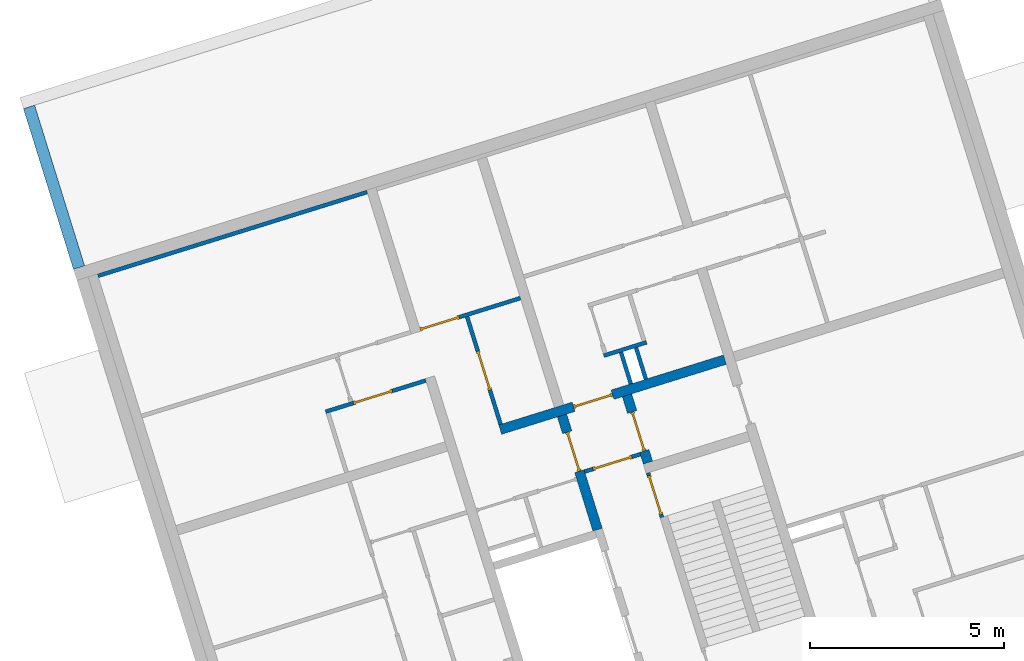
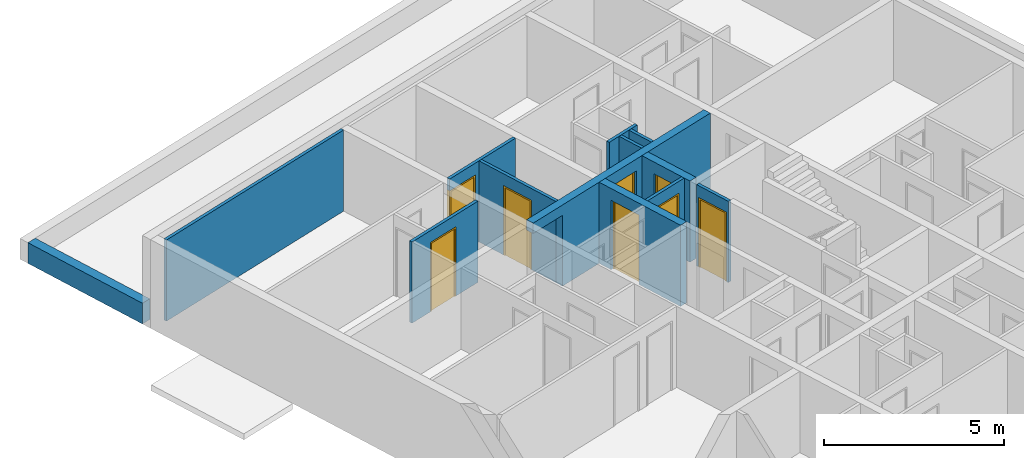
# One storey, part 5 of 9: 13 walls, 8 doors, 9 openings.
"""IFC4 building model written with IfcOpenShell, lengths in metres."""

import ifcopenshell
import ifcopenshell.guid

model = None  # the IFC model being written
_history = None  # IfcOwnerHistory: only IFC2X3 demands one
_inside = {}  # id of a spatial element -> (the spatial element, [elements in it])
_under = {}  # id of a project, library or spatial element -> (it, [spatial elements below it])
_declared = {}  # id of a project -> (the project, [libraries it declares])
_typed = {}  # id of a type object -> (the type object, [elements of that type])
_made_of = {}  # id of a material, layer set ... -> (it, [elements and type objects made of it])


def new_model(schema):
    """Start an empty IFC model of exactly this schema.

    Asked for "IFC4X3", IfcOpenShell would pick the latest addendum, in which some entities
    have other attributes; the version numbers below select the first issue.
    IFC2X3 requires an IfcOwnerHistory on every rooted entity: one is made here for all.
    """
    global model, _history
    if schema == "IFC4X3":
        model = ifcopenshell.file(schema_version=(4, 3, 0, 0))
    else:
        model = ifcopenshell.file(schema=schema)
    _inside.clear()
    _under.clear()
    _declared.clear()
    _typed.clear()
    _made_of.clear()
    _history = None
    if model.schema == "IFC2X3":
        org = make("IfcOrganization", Name="unknown")
        user = make(
            "IfcPersonAndOrganization",
            ThePerson=make("IfcPerson", FamilyName="unknown"),
            TheOrganization=org,
        )
        app = make(
            "IfcApplication",
            ApplicationDeveloper=org,
            Version="unknown",
            ApplicationFullName="unknown",
            ApplicationIdentifier="unknown",
        )
        _history = make(
            "IfcOwnerHistory",
            OwningUser=user,
            OwningApplication=app,
            ChangeAction="ADDED",
            CreationDate=0,
        )
    return model


def make(cls, **values):
    """One entity of the class cls with the attributes given. An attribute that is None is left unset."""
    return model.create_entity(
        cls, **{name: value for name, value in values.items() if value is not None}
    )


def entity(cls, *values):
    """Any entity or typed value of the class cls, its attributes in the order of the schema. None: left unset."""
    e = model.create_entity(cls)
    for i, value in enumerate(values):
        if value is not None:
            e[i] = value
    return e


def rooted(cls, **values):
    """An entity with a GlobalId (a new one), such as an element, a storey or a relation."""
    return make(cls, GlobalId=ifcopenshell.guid.new(), OwnerHistory=_history, **values)


def si_unit(unit_type, name, prefix=None):
    """IfcSIUnit, for example si_unit("LENGTHUNIT", "METRE", prefix="MILLI")."""
    return make("IfcSIUnit", UnitType=unit_type, Prefix=prefix, Name=name)


def converted_unit(unit_type, name, factor, base, dimensions=None, offset=None):
    """IfcConversionBasedUnit, such as the inch: factor (a typed value) times the base unit."""
    return make(
        "IfcConversionBasedUnit"
        if offset is None
        else "IfcConversionBasedUnitWithOffset",
        ConversionOffset=offset,
        Dimensions=None
        if dimensions is None
        else entity("IfcDimensionalExponents", *dimensions),
        UnitType=unit_type,
        Name=name,
        ConversionFactor=make(
            "IfcMeasureWithUnit", ValueComponent=factor, UnitComponent=base
        ),
    )


def assignment(units):
    """IfcUnitAssignment: the units of a project."""
    return None if units is None else make("IfcUnitAssignment", Units=units)


def point(xyz):
    """IfcCartesianPoint."""
    return None if xyz is None else make("IfcCartesianPoint", Coordinates=xyz)


def direction(xyz):
    """IfcDirection."""
    return None if xyz is None else make("IfcDirection", DirectionRatios=xyz)


def frame(location, z_axis=None, x_axis=None):
    """IfcAxis2Placement3D, a coordinate frame: its origin and axes. An axis left out is left unset."""
    return make(
        "IfcAxis2Placement3D",
        Location=point(location),
        Axis=direction(z_axis),
        RefDirection=direction(x_axis),
    )


def origin():
    """The frame at (0, 0, 0) with its axes left unset."""
    return frame((0.0, 0.0, 0.0))


def place(relative_to, where):
    """IfcLocalPlacement: puts the frame where relative to a parent placement (None: the world)."""
    return make(
        "IfcLocalPlacement", PlacementRelTo=relative_to, RelativePlacement=where
    )


def context(
    kind, dimensions, precision=None, world=None, true_north=None, identifier=None
):
    """IfcGeometricRepresentationContext, for example the 3D "Model" context."""
    return make(
        "IfcGeometricRepresentationContext",
        ContextIdentifier=identifier,
        ContextType=kind,
        CoordinateSpaceDimension=dimensions,
        Precision=precision,
        WorldCoordinateSystem=world,
        TrueNorth=true_north,
    )


def subcontext(parent, identifier, kind, view, scale=None):
    """IfcGeometricRepresentationSubContext, for example "Body" below "Model"."""
    return make(
        "IfcGeometricRepresentationSubContext",
        ContextIdentifier=identifier,
        ContextType=kind,
        ParentContext=parent,
        TargetScale=scale,
        TargetView=view,
    )


def project(units=None, contexts=None):
    """IfcProject with its units and contexts."""
    return rooted(
        "IfcProject",
        Name="project",
        RepresentationContexts=contexts,
        UnitsInContext=assignment(units),
    )


def spatial(cls, under=None, at=None, **own):
    """A site, building, storey or space (cls), placed at a placement, below another one or the project."""
    s = rooted(cls, ObjectPlacement=at, **own)
    if under is not None:
        _under.setdefault(under.id(), (under, []))[1].append(s)
    return s


def point_list(points):
    """IfcCartesianPointList2D or 3D."""
    cls = (
        "IfcCartesianPointList2D" if len(points[0]) == 2 else "IfcCartesianPointList3D"
    )
    return make(cls, CoordList=points)


def indexed_curve(points, segments=None, self_intersect=None):
    """IfcIndexedPolyCurve: lines and arcs through numbered points (the first is 1)."""
    return make(
        "IfcIndexedPolyCurve",
        Points=point_list(points),
        Segments=segments,
        SelfIntersect=self_intersect,
    )


def outline(outer, holes=None, kind="AREA"):
    """IfcArbitraryClosedProfileDef: a profile drawn as a closed curve; with holes, ...WithVoids."""
    if holes is None:
        return make("IfcArbitraryClosedProfileDef", ProfileType=kind, OuterCurve=outer)
    return make(
        "IfcArbitraryProfileDefWithVoids",
        ProfileType=kind,
        OuterCurve=outer,
        InnerCurves=holes,
    )


def extrude(swept, where, along, depth):
    """IfcExtrudedAreaSolid: the profile swept, set in the frame where, extruded along a direction by depth."""
    return make(
        "IfcExtrudedAreaSolid",
        SweptArea=swept,
        Position=where,
        ExtrudedDirection=direction(along),
        Depth=depth,
    )


def polygons(points, faces, closed=None, point_numbers=None):
    """IfcPolygonalFaceSet: a face is its outer loop, then its inner loops; points numbered from 1."""
    made = []
    for loops in faces:
        if len(loops) == 1:
            made.append(make("IfcIndexedPolygonalFace", CoordIndex=loops[0]))
        else:
            made.append(
                make(
                    "IfcIndexedPolygonalFaceWithVoids",
                    CoordIndex=loops[0],
                    InnerCoordIndices=loops[1:],
                )
            )
    return make(
        "IfcPolygonalFaceSet",
        Coordinates=point_list(points),
        Closed=closed,
        Faces=made,
        PnIndex=point_numbers,
    )


def shape(context_of_items, identifier, shape_type, items):
    """IfcShapeRepresentation: the items that make up one representation, for example the "Body"."""
    return make(
        "IfcShapeRepresentation",
        ContextOfItems=context_of_items,
        RepresentationIdentifier=identifier,
        RepresentationType=shape_type,
        Items=items,
    )


def source(mapping_origin, context_of_items, identifier, shape_type, items):
    """IfcRepresentationMap: a shape defined once, which mapped items show again and again."""
    return make(
        "IfcRepresentationMap",
        MappingOrigin=mapping_origin,
        MappedRepresentation=shape(context_of_items, identifier, shape_type, items),
    )


def transform(
    local_origin,
    x_axis=None,
    y_axis=None,
    z_axis=None,
    scale=None,
    scale2=None,
    scale3=None,
    uniform=True,
):
    """IfcCartesianTransformationOperator3D, or its non-uniform kind. x_axis, y_axis, z_axis: its Axis1, 2, 3."""
    if uniform:
        return make(
            "IfcCartesianTransformationOperator3D",
            Axis1=direction(x_axis),
            Axis2=direction(y_axis),
            LocalOrigin=point(local_origin),
            Scale=scale,
            Axis3=direction(z_axis),
        )
    return make(
        "IfcCartesianTransformationOperator3DnonUniform",
        Axis1=direction(x_axis),
        Axis2=direction(y_axis),
        LocalOrigin=point(local_origin),
        Scale=scale,
        Axis3=direction(z_axis),
        Scale2=scale2,
        Scale3=scale3,
    )


def mapped(mapping_source, mapping_target):
    """IfcMappedItem: shows the shape of a source again, moved by a transform."""
    return make(
        "IfcMappedItem", MappingSource=mapping_source, MappingTarget=mapping_target
    )


def material(Name=None, Category=None):
    """IfcMaterial."""
    return make("IfcMaterial", Name=Name, Category=Category)


def constituent(of_material, Name=None, Category=None, fraction=None):
    """IfcMaterialConstituent: one of the materials an element consists of."""
    return make(
        "IfcMaterialConstituent",
        Name=Name,
        Material=of_material,
        Fraction=fraction,
        Category=Category,
    )


def constituent_set(constituents=None, Name=None):
    """IfcMaterialConstituentSet."""
    return make(
        "IfcMaterialConstituentSet", Name=Name, MaterialConstituents=constituents
    )


def made_of(thing, what):
    """Note that an element or type object is made of a material, layer set ...; save() writes the relation."""
    if what is not None:
        _made_of.setdefault(what.id(), (what, []))[1].append(thing)
    return thing


def type_object(cls, material=None, **own):
    """A type object (cls), such as IfcWallType, which elements share."""
    return made_of(rooted(cls, **own), material)


def type_shapes(of_type, sources):
    """Give a type object the sources (RepresentationMaps) that its elements show as mapped items."""
    of_type.RepresentationMaps = sources


def element(
    cls,
    number,
    at=None,
    inside=None,
    cuts=None,
    type_object=None,
    material=None,
    context=None,
    identifier="Body",
    shape_type=None,
    held_by="IfcProductDefinitionShape",
    body=None,
    shapes=None,
    **own,
):
    """One element of the class cls, such as IfcWall. Its Tag is "e" and its number.

    at: its placement. inside: the storey or other place that contains it. cuts: it is an
    opening in that element (IfcRelVoidsElement). A single representation is given by context,
    identifier, shape_type and body (its items); several are given by shapes. held_by: the class
    of the entity that holds the representations. save() writes the other relations.
    """
    e = rooted(cls, Tag="e%d" % number, ObjectPlacement=at, **own)
    if body is not None:
        shapes = [shape(context, identifier, shape_type, body)]
    if shapes is not None:
        e.Representation = make(held_by, Representations=shapes)
    if inside is not None:
        _inside.setdefault(inside.id(), (inside, []))[1].append(e)
    if cuts is not None:
        rooted(
            "IfcRelVoidsElement", RelatingBuildingElement=cuts, RelatedOpeningElement=e
        )
    if type_object is not None:
        _typed.setdefault(type_object.id(), (type_object, []))[1].append(e)
    return made_of(e, material)


def fill(opening, filler):
    """IfcRelFillsElement: the door or window that sits in an opening."""
    return rooted(
        "IfcRelFillsElement",
        RelatingOpeningElement=opening,
        RelatedBuildingElement=filler,
    )


def aggregate(whole, parts):
    """IfcRelAggregates: a whole, such as a stair, and the parts it consists of."""
    return rooted("IfcRelAggregates", RelatingObject=whole, RelatedObjects=parts)


def save(model, path):
    """Write the relations noted so far, then the file.

    IfcRelAggregates (storeys below a building ...), IfcRelContainedInSpatialStructure (elements
    in a storey), IfcRelDefinesByType, IfcRelAssociatesMaterial and IfcRelDeclares: one each for
    every whole, place, type object, material and project.
    """
    for whole, parts in _under.values():
        aggregate(whole, parts)
    for where, things in _inside.values():
        rooted(
            "IfcRelContainedInSpatialStructure",
            RelatedElements=things,
            RelatingStructure=where,
        )
    for kind, things in _typed.values():
        rooted("IfcRelDefinesByType", RelatedObjects=things, RelatingType=kind)
    for what, things in _made_of.values():
        rooted("IfcRelAssociatesMaterial", RelatedObjects=things, RelatingMaterial=what)
    for by, libraries in _declared.values():
        rooted("IfcRelDeclares", RelatingContext=by, RelatedDefinitions=libraries)
    model.write(path)


model = new_model("IFC4")

# Units and contexts
model_context = context("Model", 3, precision=1e-05, world=origin(), true_north=direction((6.12323399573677e-17, 1.0)))
body_context = subcontext(model_context, "Body", "Model", "MODEL_VIEW")
ifc_project = project(units=[si_unit("LENGTHUNIT", "METRE"), si_unit("AREAUNIT", "SQUARE_METRE"), si_unit("VOLUMEUNIT", "CUBIC_METRE"), converted_unit("PLANEANGLEUNIT", "DEGREE", entity("IfcPlaneAngleMeasure", 0.0174532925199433), si_unit("PLANEANGLEUNIT", "RADIAN"), dimensions=[0, 0, 0, 0, 0, 0, 0])], contexts=[model_context])

# Site, building, storey
site_placement = place(None, frame((13.1347999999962, 11.9886000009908, 0.0), z_axis=(0.0, 0.0, 1.0), x_axis=(0.954770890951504, 0.297342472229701, 0.0)))
site = spatial("IfcSite", under=ifc_project, at=site_placement, Name="Schiehaven", CompositionType="ELEMENT")
building_placement = place(site_placement, origin())
building = spatial("IfcBuilding", under=site, at=building_placement, Name="VORM huis", CompositionType="ELEMENT")
storey_placement = place(building_placement, frame((0.0, 0.0, 6.9)))
storey = spatial("IfcBuildingStorey", under=building, at=storey_placement, Name="02 tweede verdieping", CompositionType="ELEMENT", Elevation=6.9)

# Wall, openings, door
ifc_material_1 = material(Name="beton_gewapend_ihw", Category="Miscellaneous")
wall_type_1 = type_object("IfcWallType", Name="Basic Wall:28_WA_skelet_wand 250mm_gen", PredefinedType="STANDARD")
wall_1_placement = place(storey_placement, frame((12.6250000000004, 22.1999999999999, 0.0)))
wall_1 = element("IfcWall", 1, at=wall_1_placement, inside=storey, type_object=wall_type_1, material=ifc_material_1, Name="Constructieve wand", ObjectType="Wand", PredefinedType="NOTDEFINED", context=body_context, shape_type="Tessellation", body=[
    polygons([(4.225, -0.124999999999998, 2.34999999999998), (4.225, -0.124999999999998, 1.08286712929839e-15), (7.25, -0.124999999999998, 1.08286712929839e-15), (7.25, -0.124999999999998, 2.75), (-9.32382171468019e-16, -0.124999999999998, 2.75), (1.23335208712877e-15, -0.124999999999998, 2.4), (1.2, -0.124999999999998, 2.4), (1.2, -0.124999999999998, 1.08286712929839e-15), (3.175, -0.124999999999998, 1.08286712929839e-15), (3.175, -0.124999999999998, 2.34999999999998), (7.25, 0.125000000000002, 1.08286712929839e-15), (4.225, 0.125000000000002, 1.08286712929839e-15), (4.225, 0.125000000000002, 2.34999999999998), (3.175, 0.125000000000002, 2.34999999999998), (3.175, 0.125000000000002, 1.08286712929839e-15), (1.2, 0.124999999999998, 1.08286712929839e-15), (1.2, 0.125000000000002, 2.4), (1.38467104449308e-15, 0.125000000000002, 2.4), (1.38467104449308e-15, 0.125000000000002, 2.75), (7.25, 0.125000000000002, 2.75)], [[[1, 2, 3, 4, 5, 6, 7, 8, 9, 10]], [[11, 12, 13, 14, 15, 16, 17, 18, 19, 20]], [[9, 8, 16, 15]], [[5, 4, 20, 19]], [[5, 19, 18, 6]], [[15, 14, 10, 9]], [[13, 12, 2, 1]], [[14, 13, 1, 10]], [[7, 17, 16, 8]], [[17, 7, 6, 18]], [[4, 3, 11, 20]], [[3, 2, 12, 11]]], closed=True),
])
opening_1_placement = place(wall_1_placement, origin())
element("IfcOpeningElement", 2, at=opening_1_placement, cuts=wall_1, Name="Constructieve wand", PredefinedType="OPENING", context=body_context, shape_type="SweptSolid", body=[
    extrude(outline(indexed_curve([(-1.2, -0.6), (1.2, -0.6), (1.2, 0.6), (-1.2, 0.6), (-1.2, -0.6)], self_intersect=False)), frame((0.599999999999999, -0.125000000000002, 1.2), z_axis=(0.0, 1.0, 0.0), x_axis=(0.0, 0.0, -1.0)), (0.0, 0.0, 1.0), 0.250000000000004),
])
opening_2_placement = place(wall_1_placement, frame((4.22500000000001, 0.124999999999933, 0.0)))
opening_2 = element("IfcOpeningElement", 3, at=opening_2_placement, cuts=wall_1, Name="Woningtoegangsdeur", PredefinedType="OPENING", context=body_context, shape_type="SweptSolid", body=[
    extrude(outline(indexed_curve([(2.34999999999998, 1.05), (0.0, 1.05), (0.0, 1.08286712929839e-15), (2.34999999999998, 1.08286712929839e-15), (2.34999999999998, 1.05)], self_intersect=False)), frame((0.0, 0.0, 0.0), z_axis=(0.0, -1.0, 0.0), x_axis=(0.0, 0.0, 1.0)), (0.0, 0.0, 1.0), 0.25),
])
ifc_material_2 = material(Name="PD_a_binnenwandopeningen", Category="Miscellaneous")
ifc_constituent_1 = constituent(ifc_material_2, Name="PD_a_binnenwandopeningen", Category="Miscellaneous")
ifc_material_3 = material(Name="metaal_aluminium_ntb", Category="Miscellaneous")
ifc_constituent_2 = constituent(ifc_material_3, Name="metaal_aluminium_ntb", Category="Miscellaneous")
ifc_constituent_set_1 = constituent_set(constituents=[ifc_constituent_1, ifc_constituent_2])
door_type_1 = type_object("IfcDoorType", Name="32_DO_binnendeur enkel:woningtoegangsdeur", OperationType="REVOLVING", PredefinedType="DOOR")
shared_shape_1 = source(origin(), body_context, "Body", "SweptSolid", [
    extrude(outline(indexed_curve([(-1.16249999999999, -0.525000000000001), (1.18749999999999, -0.525), (1.18749999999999, 0.525000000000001), (-1.16249999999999, 0.525000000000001), (-1.16249999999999, 0.475), (1.13749999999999, 0.475), (1.13749999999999, -0.475), (-1.16249999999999, -0.475), (-1.16249999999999, -0.525000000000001)], self_intersect=False)), frame((0.525000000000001, 0.0749999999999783, 1.16249999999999), z_axis=(0.0, 1.0, 0.0), x_axis=(0.0, 0.0, 1.0)), (0.0, 0.0, 1.0), 0.1),
    extrude(outline(indexed_curve([(-0.025, -0.475), (0.025, -0.475), (0.025, 0.475), (-0.025, 0.475), (-0.025, -0.475)], self_intersect=False)), frame((0.525000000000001, 0.12499999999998, 0.0), z_axis=(0.0, 0.0, 1.0), x_axis=(0.0, 1.0, 0.0)), (0.0, 0.0, 1.0), 2.29999999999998),
])
door_1_placement = place(opening_2_placement, frame((0.0, 0.0, 0.0), z_axis=(0.0, 0.0, 1.0), x_axis=(-1.0, 0.0, 0.0)))
door_1 = element("IfcDoor", 4, at=door_1_placement, inside=storey, type_object=door_type_1, material=ifc_constituent_set_1, Name="Woningtoegangsdeur", ObjectType="Deur", OperationType="REVOLVING", OverallHeight=2.34999999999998, OverallWidth=1.05, PredefinedType="DOOR", context=body_context, shape_type="MappedRepresentation", body=[
    mapped(shared_shape_1, transform((0.0, 0.0, 0.0), scale=1.0)),
])
fill(opening_2, door_1)

# Walls
ifc_material_4 = material(Name="ntb_ntb_ntb", Category="Miscellaneous")
wall_type_2 = type_object("IfcWallType", Name="Basic Wall:21_WA_gevel_binnenspouwwand 100mm_gen", PredefinedType="STANDARD")
wall_2_placement = place(storey_placement, frame((5.12500000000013, 29.0500000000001, 0.0)))
element("IfcWall", 5, at=wall_2_placement, inside=storey, type_object=wall_type_2, material=ifc_material_4, Name="Binnenspouwblad", ObjectType="Wand", PredefinedType="NOTDEFINED", context=body_context, shape_type="SweptSolid", body=[
    extrude(outline(indexed_curve([(7.24999999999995, 0.0500000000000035), (-1.62265042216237e-16, 0.0500000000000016), (1.62265042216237e-16, -0.0500000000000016), (7.24999999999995, -0.0499999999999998), (7.24999999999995, 0.0500000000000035)], self_intersect=False)), origin(), (0.0, 0.0, 1.0), 2.75),
])
wall_type_3 = type_object("IfcWallType", Name="Basic Wall: 300mm_gen", PredefinedType="STANDARD")
wall_3_placement = place(storey_placement, frame((4.7250000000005, 29.3999999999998, 0.0), z_axis=(0.0, 0.0, 1.0), x_axis=(0.0, 1.0, 0.0)))
element("IfcWall", 6, at=wall_3_placement, inside=storey, type_object=wall_type_3, material=ifc_material_4, Name="Gevelwand", ObjectType="Wand", PredefinedType="NOTDEFINED", context=body_context, shape_type="SweptSolid", body=[
    extrude(outline(indexed_curve([(4.32500000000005, 0.15), (-1.83388115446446e-16, 0.15), (1.83388115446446e-16, -0.15), (4.32500000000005, -0.15), (4.32500000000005, 0.15)], self_intersect=False)), origin(), (0.0, 0.0, 1.0), 0.700000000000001),
])

# Wall, opening, door
wall_type_4 = type_object("IfcWallType", Name="Basic Wall:22_WA_afbouw_binnenwand 250mm_gen", PredefinedType="STANDARD")
wall_4_placement = place(storey_placement, frame((17.2000000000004, 20.2599999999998, 0.0), z_axis=(0.0, 0.0, 1.0), x_axis=(0.0, 1.0, 0.0)))
wall_4 = element("IfcWall", 7, at=wall_4_placement, inside=storey, type_object=wall_type_4, material=ifc_material_4, Name="Binnenwand", ObjectType="Wand", PredefinedType="NOTDEFINED", context=body_context, shape_type="Tessellation", body=[
    polygons([(0.0, -0.124999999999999, 1.08286712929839e-15), (0.315000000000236, -0.124999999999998, 1.08286712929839e-15), (0.315000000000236, -0.124999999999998, 2.34999999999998), (1.36500000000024, -0.124999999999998, 2.34999999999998), (1.36500000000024, -0.124999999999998, 1.08286712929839e-15), (1.81500000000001, -0.124999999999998, 1.08286712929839e-15), (1.81500000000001, -0.124999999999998, 2.75), (0.0, -0.124999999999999, 2.75), (0.315000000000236, 0.125000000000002, 2.34999999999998), (0.315000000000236, 0.125000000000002, 1.08286712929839e-15), (0.215000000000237, 0.125000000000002, 0.0), (0.0, 0.125, 1.08286712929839e-15), (0.0, 0.125, 2.75), (0.215000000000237, 0.125000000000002, 2.75), (0.315000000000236, 0.125000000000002, 2.75), (1.81500000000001, 0.124999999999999, 2.75), (1.81500000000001, 0.124999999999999, 1.08286712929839e-15), (1.36500000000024, 0.125000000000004, 1.08286712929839e-15), (1.36500000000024, 0.125000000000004, 2.34999999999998)], [[[1, 2, 3, 4, 5, 6, 7, 8]], [[9, 10, 11, 12, 13, 14, 15, 16, 17, 18, 19]], [[12, 11, 10, 2, 1]], [[7, 6, 17, 16]], [[8, 7, 16, 15, 14, 13]], [[5, 4, 19, 18]], [[3, 2, 10, 9]], [[4, 3, 9, 19]], [[1, 8, 13, 12]], [[18, 17, 6, 5]]], closed=True),
])
opening_3_placement = place(wall_4_placement, frame((0.315000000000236, -0.125000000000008, 0.0)))
opening_3 = element("IfcOpeningElement", 8, at=opening_3_placement, cuts=wall_4, Name="Woningtoegangsdeur", PredefinedType="OPENING", context=body_context, shape_type="SweptSolid", body=[
    extrude(outline(indexed_curve([(2.34999999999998, 1.05), (0.0, 1.05), (0.0, 0.0), (2.34999999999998, 0.0), (2.34999999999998, 1.05)], self_intersect=False)), frame((0.0, 0.0, 0.0), z_axis=(0.0, 1.0, 0.0), x_axis=(0.0, 0.0, 1.0)), (0.0, 0.0, 1.0), 0.25),
])
ifc_constituent_3 = constituent(ifc_material_2, Name="PD_a_binnenwandopeningen", Category="Miscellaneous")
ifc_constituent_4 = constituent(ifc_material_3, Name="metaal_aluminium_ntb", Category="Miscellaneous")
ifc_constituent_set_2 = constituent_set(constituents=[ifc_constituent_3, ifc_constituent_4])
shared_shape_2 = source(origin(), body_context, "Body", "SweptSolid", [
    extrude(outline(indexed_curve([(-1.16249999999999, -0.525000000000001), (1.18749999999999, -0.525), (1.18749999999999, 0.525000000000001), (-1.16249999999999, 0.525000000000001), (-1.16249999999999, 0.475), (1.13749999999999, 0.475), (1.13749999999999, -0.475), (-1.16249999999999, -0.475), (-1.16249999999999, -0.525000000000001)], self_intersect=False)), frame((0.525000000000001, 0.0749999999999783, 1.16249999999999), z_axis=(0.0, 1.0, 0.0), x_axis=(0.0, 0.0, 1.0)), (0.0, 0.0, 1.0), 0.1),
    extrude(outline(indexed_curve([(-0.025, -0.475), (0.025, -0.475), (0.025, 0.475), (-0.025, 0.475), (-0.025, -0.475)], self_intersect=False)), frame((0.525000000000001, 0.12499999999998, 0.0), z_axis=(0.0, 0.0, 1.0), x_axis=(0.0, 1.0, 0.0)), (0.0, 0.0, 1.0), 2.29999999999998),
])
type_shapes(door_type_1, [shared_shape_2])
door_2_placement = place(opening_3_placement, origin())
door_2 = element("IfcDoor", 9, at=door_2_placement, inside=storey, type_object=door_type_1, material=ifc_constituent_set_2, Name="Woningtoegangsdeur", ObjectType="Deur", OperationType="REVOLVING", OverallHeight=2.34999999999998, OverallWidth=1.05, PredefinedType="DOOR", context=body_context, shape_type="MappedRepresentation", body=[
    mapped(shared_shape_2, transform((0.0, 0.0, 0.0), scale=1.0)),
])
fill(opening_3, door_2)

wall_5_placement = place(storey_placement, frame((15.4500000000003, 19.0, 0.0), z_axis=(0.0, 0.0, 1.0), x_axis=(0.0, 1.0, 0.0)))
wall_5 = element("IfcWall", 10, at=wall_5_placement, inside=storey, type_object=wall_type_4, material=ifc_material_4, Name="Binnenwand", ObjectType="Wand", PredefinedType="NOTDEFINED", context=body_context, shape_type="Tessellation", body=[
    polygons([(2.62500000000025, -0.124999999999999, 2.34999999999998), (2.62500000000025, -0.124999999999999, 1.08286712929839e-15), (3.075, -0.124999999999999, 1.08286712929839e-15), (3.075, -0.124999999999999, 2.75), (1.57500000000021, -0.124999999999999, 2.75), (1.47500000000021, -0.124999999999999, 2.75), (4.33146851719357e-15, -0.125, 2.75), (4.33146851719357e-15, -0.125, 1.08286712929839e-15), (1.47500000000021, -0.124999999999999, 0.0), (1.57500000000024, -0.124999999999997, 1.08286712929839e-15), (1.57500000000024, -0.124999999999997, 2.34999999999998), (3.075, 0.125, 1.08286712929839e-15), (2.62500000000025, 0.125000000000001, 1.08286712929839e-15), (2.62500000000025, 0.125000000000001, 2.34999999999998), (1.57500000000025, 0.125000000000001, 2.34999999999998), (1.57500000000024, 0.125000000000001, 1.08286712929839e-15), (0.0, 0.125, 1.08286712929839e-15), (0.0, 0.125, 2.75), (3.075, 0.125, 2.75)], [[[1, 2, 3, 4, 5, 6, 7, 8, 9, 10, 11]], [[12, 13, 14, 15, 16, 17, 18, 19]], [[10, 9, 8, 17, 16]], [[4, 3, 12, 19]], [[7, 6, 5, 4, 19, 18]], [[8, 7, 18, 17]], [[16, 15, 11, 10]], [[14, 13, 2, 1]], [[15, 14, 1, 11]], [[3, 2, 13, 12]]], closed=True),
])
opening_4_placement = place(wall_5_placement, frame((2.62500000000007, 0.124999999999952, 0.0)))
opening_4 = element("IfcOpeningElement", 11, at=opening_4_placement, cuts=wall_5, Name="Woningtoegangsdeur", PredefinedType="OPENING", context=body_context, shape_type="SweptSolid", body=[
    extrude(outline(indexed_curve([(2.34999999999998, 1.05), (0.0, 1.05), (0.0, -4.02144990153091e-29), (2.34999999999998, -4.02144990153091e-29), (2.34999999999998, 1.05)], self_intersect=False)), frame((0.0, 0.0, 0.0), z_axis=(0.0, -1.0, 0.0), x_axis=(0.0, 0.0, 1.0)), (0.0, 0.0, 1.0), 0.25),
])
ifc_constituent_5 = constituent(ifc_material_2, Name="PD_a_binnenwandopeningen", Category="Miscellaneous")
ifc_constituent_6 = constituent(ifc_material_3, Name="metaal_aluminium_ntb", Category="Miscellaneous")
ifc_constituent_set_3 = constituent_set(constituents=[ifc_constituent_5, ifc_constituent_6])
door_3_placement = place(opening_4_placement, frame((0.0, 0.0, 0.0), z_axis=(0.0, 0.0, 1.0), x_axis=(-1.0, 0.0, 0.0)))
door_3 = element("IfcDoor", 12, at=door_3_placement, inside=storey, type_object=door_type_1, material=ifc_constituent_set_3, Name="Woningtoegangsdeur", ObjectType="Deur", OperationType="REVOLVING", OverallHeight=2.34999999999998, OverallWidth=1.05, PredefinedType="DOOR", context=body_context, shape_type="MappedRepresentation", body=[
    mapped(shared_shape_2, transform((0.0, 0.0, 0.0), scale=1.0)),
])
fill(opening_4, door_3)

wall_type_5 = type_object("IfcWallType", Name="Basic Wall:22_WA_afbouw_binnenwand 100mm_gen", PredefinedType="STANDARD")
wall_6_placement = place(storey_placement, frame((17.1250000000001, 20.0099999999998, 0.0), z_axis=(0.0, 0.0, 1.0), x_axis=(0.0, -1.0, 0.0)))
wall_6 = element("IfcWall", 13, at=wall_6_placement, inside=storey, type_object=wall_type_5, material=ifc_material_4, Name="Binnenwand", ObjectType="Wand", PredefinedType="NOTDEFINED", context=body_context, shape_type="Tessellation", body=[
    polygons([(1.19999999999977, -0.050000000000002, 1.08286712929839e-15), (1.19999999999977, -0.050000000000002, 2.75), (0.0, -0.0500000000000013, 2.75), (0.0, -0.0500000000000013, 1.08286712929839e-15), (0.074999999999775, -0.0500000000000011, 1.08286712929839e-15), (0.074999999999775, -0.0500000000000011, 2.34999999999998), (1.12499999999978, -0.0500000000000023, 2.34999999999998), (1.12499999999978, -0.0500000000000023, 1.08286712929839e-15), (1.19999999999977, 0.0499999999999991, 2.75), (1.19999999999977, 0.0499999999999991, 1.08286712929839e-15), (1.12499999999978, 0.0499999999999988, 1.08286712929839e-15), (1.12499999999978, 0.0499999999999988, 2.34999999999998), (0.074999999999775, 0.0499999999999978, 2.34999999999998), (0.074999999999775, 0.0499999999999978, 1.08286712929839e-15), (0.0, 0.0499999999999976, 1.08286712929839e-15), (0.0, 0.0499999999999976, 2.75)], [[[1, 2, 3, 4, 5, 6, 7, 8]], [[9, 10, 11, 12, 13, 14, 15, 16]], [[4, 15, 14, 5]], [[2, 1, 10, 9]], [[3, 2, 9, 16]], [[13, 6, 5, 14]], [[6, 13, 12, 7]], [[7, 12, 11, 8]], [[4, 3, 16, 15]], [[10, 1, 8, 11]]], closed=True),
])
opening_5_placement = place(wall_6_placement, frame((0.074999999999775, -0.0500000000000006, 0.0)))
opening_5 = element("IfcOpeningElement", 14, at=opening_5_placement, cuts=wall_6, Name="Vluchtdeur", PredefinedType="OPENING", context=body_context, shape_type="SweptSolid", body=[
    extrude(outline(indexed_curve([(2.34999999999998, 1.05), (0.0, 1.05), (0.0, -3.51974282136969e-30), (2.34999999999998, -3.51974282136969e-30), (2.34999999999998, 1.05)], self_intersect=False)), frame((0.0, 0.0, 0.0), z_axis=(0.0, 1.0, 0.0), x_axis=(0.0, 0.0, 1.0)), (0.0, 0.0, 1.0), 0.1),
])
ifc_constituent_7 = constituent(ifc_material_2, Name="PD_a_binnenwandopeningen", Category="Miscellaneous")
ifc_constituent_8 = constituent(ifc_material_3, Name="metaal_aluminium_ntb", Category="Miscellaneous")
ifc_constituent_set_4 = constituent_set(constituents=[ifc_constituent_7, ifc_constituent_8])
door_type_2 = type_object("IfcDoorType", Name="32_DO_binnendeur enkel:binnendeur zelfsluitend 30min", OperationType="NOTDEFINED", PredefinedType="DOOR")
shared_shape_3 = source(origin(), body_context, "Body", "SweptSolid", [
    extrude(outline(indexed_curve([(-1.16249999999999, -0.525000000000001), (1.18749999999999, -0.525), (1.18749999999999, 0.525), (-1.16249999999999, 0.525), (-1.16249999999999, 0.475), (1.13749999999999, 0.475), (1.13749999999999, -0.475), (-1.16249999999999, -0.475), (-1.16249999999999, -0.525000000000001)], self_intersect=False)), frame((0.525000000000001, 0.0, 1.16249999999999), z_axis=(0.0, 1.0, 0.0), x_axis=(0.0, 0.0, 1.0)), (0.0, 0.0, 1.0), 0.1),
    extrude(outline(indexed_curve([(-0.025, -0.475), (0.025, -0.475), (0.025, 0.475), (-0.025, 0.475), (-0.025, -0.475)], self_intersect=False)), frame((0.525000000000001, 0.0499999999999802, 0.0), z_axis=(0.0, 0.0, 1.0), x_axis=(0.0, 1.0, 0.0)), (0.0, 0.0, 1.0), 2.29999999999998),
])
type_shapes(door_type_2, [shared_shape_3])
door_4_placement = place(opening_5_placement, origin())
door_4 = element("IfcDoor", 15, at=door_4_placement, inside=storey, type_object=door_type_2, material=ifc_constituent_set_4, Name="Vluchtdeur", ObjectType="Deur", OperationType="NOTDEFINED", OverallHeight=2.34999999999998, OverallWidth=1.05, PredefinedType="DOOR", context=body_context, shape_type="MappedRepresentation", body=[
    mapped(shared_shape_3, transform((0.0, 0.0, 0.0), scale=1.0)),
])
fill(opening_5, door_4)

wall_7_placement = place(storey_placement, frame((17.0750000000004, 20.525, 0.0), z_axis=(0.0, 0.0, 1.0), x_axis=(-1.0, 0.0, 0.0)))
wall_7 = element("IfcWall", 16, at=wall_7_placement, inside=storey, type_object=wall_type_5, material=ifc_material_4, Name="Binnenwand", ObjectType="Wand", PredefinedType="NOTDEFINED", context=body_context, shape_type="Tessellation", body=[
    polygons([(1.50000000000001, -0.0499999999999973, 2.75), (7.85851977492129e-16, -0.0499999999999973, 2.75), (7.85851977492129e-16, -0.0499999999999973, 2.34999999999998), (7.85851977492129e-16, -0.0499999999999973, 1.08286712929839e-15), (0.22500000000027, -0.0499999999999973, 1.08286712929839e-15), (0.225000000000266, -0.0499999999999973, 2.34999999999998), (1.27500000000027, -0.0499999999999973, 2.34999999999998), (1.27500000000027, -0.0499999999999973, 1.08286712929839e-15), (1.50000000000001, -0.0499999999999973, 1.08286712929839e-15), (1.5, -0.0499999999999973, 2.34999999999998), (3.01092306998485e-15, 0.0500000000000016, 2.75), (1.50000000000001, 0.0500000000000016, 2.75), (1.50000000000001, 0.0500000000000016, 1.08286712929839e-15), (1.27500000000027, 0.0500000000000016, 1.08286712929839e-15), (1.27500000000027, 0.0500000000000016, 2.34999999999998), (0.225000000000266, 0.0500000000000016, 2.34999999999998), (0.22500000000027, 0.0500000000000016, 1.08286712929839e-15), (3.01092306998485e-15, 0.0500000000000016, 1.08286712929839e-15)], [[[1, 2, 3, 4, 5, 6, 7, 8, 9, 10]], [[11, 12, 13, 14, 15, 16, 17, 18]], [[4, 18, 17, 5]], [[2, 1, 12, 11]], [[16, 6, 5, 17]], [[6, 16, 15, 7]], [[7, 15, 14, 8]], [[1, 10, 9, 13, 12]], [[4, 3, 2, 11, 18]], [[13, 9, 8, 14]]], closed=True),
])
opening_6_placement = place(wall_7_placement, frame((0.225000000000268, -0.0500000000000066, 0.0)))
opening_6 = element("IfcOpeningElement", 17, at=opening_6_placement, cuts=wall_7, Name="Vluchtdeur", PredefinedType="OPENING", context=body_context, shape_type="SweptSolid", body=[
    extrude(outline(indexed_curve([(2.34999999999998, 1.05), (0.0, 1.05), (0.0, 1.35358391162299e-15), (2.34999999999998, 1.35358391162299e-15), (2.34999999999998, 1.05)], self_intersect=False)), frame((0.0, 0.0, 0.0), z_axis=(0.0, 1.0, 0.0), x_axis=(0.0, 0.0, 1.0)), (0.0, 0.0, 1.0), 0.1),
])
ifc_constituent_9 = constituent(ifc_material_2, Name="PD_a_binnenwandopeningen", Category="Miscellaneous")
ifc_constituent_10 = constituent(ifc_material_3, Name="metaal_aluminium_ntb", Category="Miscellaneous")
ifc_constituent_set_5 = constituent_set(constituents=[ifc_constituent_9, ifc_constituent_10])
door_5_placement = place(opening_6_placement, origin())
door_5 = element("IfcDoor", 18, at=door_5_placement, inside=storey, type_object=door_type_2, material=ifc_constituent_set_5, Name="Vluchtdeur", ObjectType="Deur", OperationType="NOTDEFINED", OverallHeight=2.34999999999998, OverallWidth=1.05, PredefinedType="DOOR", context=body_context, shape_type="MappedRepresentation", body=[
    mapped(shared_shape_3, transform((0.0, 0.0, 0.0), scale=1.0)),
])
fill(opening_6, door_5)

# Walls
wall_8_placement = place(storey_placement, frame((18.0840000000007, 23.2250000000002, 0.0), z_axis=(0.0, 0.0, 1.0), x_axis=(-1.0, 0.0, 0.0)))
element("IfcWall", 19, at=wall_8_placement, inside=storey, type_object=wall_type_5, material=ifc_material_4, Name="Binnenwand", ObjectType="Wand", PredefinedType="NOTDEFINED", context=body_context, shape_type="SweptSolid", body=[
    extrude(outline(indexed_curve([(1.15000000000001, 0.050000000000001), (-7.23954101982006e-16, 0.0500000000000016), (7.23954101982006e-16, -0.0500000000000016), (1.15000000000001, -0.0500000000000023), (1.15000000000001, 0.050000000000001)], self_intersect=False)), origin(), (0.0, 0.0, 1.0), 2.75),
])
wall_9_placement = place(storey_placement, frame((17.3840000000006, 22.3250000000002, 0.0), z_axis=(0.0, 0.0, 1.0), x_axis=(0.0, 1.0, 0.0)))
element("IfcWall", 20, at=wall_9_placement, inside=storey, type_object=wall_type_5, material=ifc_material_4, Name="Binnenwand", ObjectType="Wand", PredefinedType="NOTDEFINED", context=body_context, shape_type="SweptSolid", body=[
    extrude(outline(indexed_curve([(0.85000000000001, 0.0500000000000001), (-6.72839576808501e-16, 0.0499999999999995), (6.72839576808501e-16, -0.0499999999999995), (0.850000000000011, -0.0499999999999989), (0.85000000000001, 0.0500000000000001)], self_intersect=False)), origin(), (0.0, 0.0, 1.0), 2.75),
])
wall_10_placement = place(storey_placement, frame((17.7840000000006, 22.3250000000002, 0.0), z_axis=(0.0, 0.0, 1.0), x_axis=(0.0, 1.0, 0.0)))
element("IfcWall", 21, at=wall_10_placement, inside=storey, type_object=wall_type_5, material=ifc_material_4, Name="Binnenwand", ObjectType="Wand", PredefinedType="NOTDEFINED", context=body_context, shape_type="SweptSolid", body=[
    extrude(outline(indexed_curve([(0.850000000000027, 0.0500000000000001), (-6.72839576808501e-16, 0.0499999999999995), (6.72839576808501e-16, -0.0499999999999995), (0.850000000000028, -0.0499999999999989), (0.850000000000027, 0.0500000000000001)], self_intersect=False)), origin(), (0.0, 0.0, 1.0), 2.75),
])

# Wall, opening, door
wall_11_placement = place(storey_placement, frame((9.6750000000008, 23.9750000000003, 0.0)))
wall_11 = element("IfcWall", 22, at=wall_11_placement, inside=storey, type_object=wall_type_5, material=ifc_material_4, Name="Binnenwand", ObjectType="Wand", PredefinedType="NOTDEFINED", context=body_context, shape_type="Tessellation", body=[
    polygons([(1.04557742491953e-15, -0.0499999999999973, 1.08286712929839e-15), (0.100000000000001, -0.0499999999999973, 0.0), (0.750000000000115, -0.0499999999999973, 1.08286712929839e-15), (0.750000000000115, -0.0499999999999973, 2.34999999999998), (1.80000000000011, -0.0499999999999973, 2.34999999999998), (1.80000000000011, -0.0499999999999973, 1.08286712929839e-15), (2.69999999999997, -0.0499999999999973, 1.08286712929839e-15), (2.69999999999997, -0.0499999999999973, 2.75), (0.100000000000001, -0.0499999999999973, 2.75), (-1.12015683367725e-15, -0.0499999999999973, 2.75), (0.750000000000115, 0.0500000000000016, 2.34999999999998), (0.750000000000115, 0.0500000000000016, 1.08286712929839e-15), (0.650000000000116, 0.0500000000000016, 0.0), (8.10064863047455e-16, 0.0500000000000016, 1.08286712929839e-15), (8.10064863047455e-16, 0.0500000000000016, 2.75), (0.650000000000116, 0.0500000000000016, 2.75), (0.750000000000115, 0.0500000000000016, 2.75), (2.69999999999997, 0.0500000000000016, 2.75), (2.69999999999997, 0.0500000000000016, 1.08286712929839e-15), (1.80000000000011, 0.0500000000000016, 1.08286712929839e-15), (1.80000000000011, 0.0500000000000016, 2.34999999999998)], [[[1, 2, 3, 4, 5, 6, 7, 8, 9, 10]], [[11, 12, 13, 14, 15, 16, 17, 18, 19, 20, 21]], [[14, 13, 12, 3, 2, 1]], [[8, 7, 19, 18]], [[10, 9, 8, 18, 17, 16, 15]], [[6, 5, 21, 20]], [[4, 3, 12, 11]], [[5, 4, 11, 21]], [[1, 10, 15, 14]], [[20, 19, 7, 6]]], closed=True),
])
opening_7_placement = place(wall_11_placement, frame((0.750000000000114, -0.050000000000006, 0.0)))
opening_7 = element("IfcOpeningElement", 23, at=opening_7_placement, cuts=wall_11, Name="Binnendeur", PredefinedType="OPENING", context=body_context, shape_type="SweptSolid", body=[
    extrude(outline(indexed_curve([(2.34999999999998, 1.05), (0.0, 1.05), (0.0, 1.35358391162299e-15), (2.34999999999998, 1.35358391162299e-15), (2.34999999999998, 1.05)], self_intersect=False)), frame((0.0, 0.0, 0.0), z_axis=(0.0, 1.0, 0.0), x_axis=(0.0, 0.0, 1.0)), (0.0, 0.0, 1.0), 0.1),
])
ifc_constituent_11 = constituent(ifc_material_2, Name="PD_a_binnenwandopeningen", Category="Miscellaneous")
ifc_constituent_12 = constituent(ifc_material_3, Name="metaal_aluminium_ntb", Category="Miscellaneous")
ifc_constituent_set_6 = constituent_set(constituents=[ifc_constituent_11, ifc_constituent_12])
door_type_3 = type_object("IfcDoorType", Name="32_DO_binnendeur enkel:binnendeur", OperationType="REVOLVING", PredefinedType="DOOR")
shared_shape_4 = source(origin(), body_context, "Body", "SweptSolid", [
    extrude(outline(indexed_curve([(-1.16249999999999, -0.525000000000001), (1.18749999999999, -0.525), (1.18749999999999, 0.525), (-1.16249999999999, 0.525), (-1.16249999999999, 0.475), (1.13749999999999, 0.475), (1.13749999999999, -0.475), (-1.16249999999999, -0.475), (-1.16249999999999, -0.525000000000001)], self_intersect=False)), frame((0.525000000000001, 0.0, 1.16249999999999), z_axis=(0.0, 1.0, 0.0), x_axis=(0.0, 0.0, 1.0)), (0.0, 0.0, 1.0), 0.1),
    extrude(outline(indexed_curve([(-0.025, -0.475), (0.025, -0.475), (0.025, 0.475), (-0.025, 0.475), (-0.025, -0.475)], self_intersect=False)), frame((0.525000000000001, 0.0499999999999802, 0.0), z_axis=(0.0, 0.0, 1.0), x_axis=(0.0, 1.0, 0.0)), (0.0, 0.0, 1.0), 2.29999999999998),
])
type_shapes(door_type_3, [shared_shape_4])
door_6_placement = place(opening_7_placement, origin())
door_6 = element("IfcDoor", 24, at=door_6_placement, inside=storey, type_object=door_type_3, material=ifc_constituent_set_6, Name="Binnendeur", ObjectType="Deur", OperationType="REVOLVING", OverallHeight=2.34999999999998, OverallWidth=1.05, PredefinedType="DOOR", context=body_context, shape_type="MappedRepresentation", body=[
    mapped(shared_shape_4, transform((0.0, 0.0, 0.0), scale=1.0)),
])
fill(opening_7, door_6)

wall_12_placement = place(storey_placement, frame((15.3250000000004, 25.2750000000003, 0.0), z_axis=(0.0, 0.0, 1.0), x_axis=(-1.0, 0.0, 0.0)))
wall_12 = element("IfcWall", 25, at=wall_12_placement, inside=storey, type_object=wall_type_5, material=ifc_material_4, Name="Binnenwand", ObjectType="Wand", PredefinedType="NOTDEFINED", context=body_context, shape_type="Tessellation", body=[
    polygons([(2.69999999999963, -0.049999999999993, 2.75), (5.14203627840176e-16, -0.0499999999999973, 2.75), (5.14203627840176e-16, -0.0499999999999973, 1.08286712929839e-15), (1.64999999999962, -0.0499999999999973, 1.08286712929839e-15), (1.64999999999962, -0.0499999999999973, 2.34999999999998), (2.69999999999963, -0.049999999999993, 2.34999999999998), (2.04309701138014e-16, 0.0500000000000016, 2.75), (1.39999999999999, 0.0500000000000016, 2.75), (1.49999999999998, 0.0500000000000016, 2.75), (2.69999999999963, 0.050000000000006, 2.75), (2.69999999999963, 0.050000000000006, 2.34999999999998), (1.64999999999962, 0.0500000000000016, 2.34999999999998), (1.64999999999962, 0.0500000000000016, 1.08286712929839e-15), (1.49999999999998, 0.0500000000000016, 0.0), (1.39999999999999, 0.0500000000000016, 0.0), (2.04309701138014e-16, 0.0500000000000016, 1.08286712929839e-15)], [[[1, 2, 3, 4, 5, 6]], [[7, 8, 9, 10, 11, 12, 13, 14, 15, 16]], [[3, 16, 15, 14, 13, 4]], [[10, 1, 6, 11]], [[2, 1, 10, 9, 8, 7]], [[3, 2, 7, 16]], [[12, 5, 4, 13]], [[5, 12, 11, 6]]], closed=True),
])
opening_8_placement = place(wall_12_placement, frame((1.64999999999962, -0.050000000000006, 0.0)))
opening_8 = element("IfcOpeningElement", 26, at=opening_8_placement, cuts=wall_12, Name="Binnendeur", PredefinedType="OPENING", context=body_context, shape_type="SweptSolid", body=[
    extrude(outline(indexed_curve([(2.34999999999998, 1.05), (0.0, 1.05), (0.0, 1.35358391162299e-15), (2.34999999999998, 1.35358391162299e-15), (2.34999999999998, 1.05)], self_intersect=False)), frame((0.0, 0.0, 0.0), z_axis=(0.0, 1.0, 0.0), x_axis=(0.0, 0.0, 1.0)), (0.0, 0.0, 1.0), 0.1),
])
ifc_constituent_13 = constituent(ifc_material_2, Name="PD_a_binnenwandopeningen", Category="Miscellaneous")
ifc_constituent_14 = constituent(ifc_material_3, Name="metaal_aluminium_ntb", Category="Miscellaneous")
ifc_constituent_set_7 = constituent_set(constituents=[ifc_constituent_13, ifc_constituent_14])
door_7_placement = place(opening_8_placement, origin())
door_7 = element("IfcDoor", 27, at=door_7_placement, inside=storey, type_object=door_type_3, material=ifc_constituent_set_7, Name="Binnendeur", ObjectType="Deur", OperationType="REVOLVING", OverallHeight=2.34999999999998, OverallWidth=1.05, PredefinedType="DOOR", context=body_context, shape_type="MappedRepresentation", body=[
    mapped(shared_shape_4, transform((0.0, 0.0, 0.0), scale=1.0)),
])
fill(opening_8, door_7)

wall_13_placement = place(storey_placement, frame((13.8750000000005, 22.3249999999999, 0.0), z_axis=(0.0, 0.0, 1.0), x_axis=(0.0, 1.0, 0.0)))
wall_13 = element("IfcWall", 28, at=wall_13_placement, inside=storey, type_object=wall_type_5, material=ifc_material_4, Name="Binnenwand", ObjectType="Wand", PredefinedType="NOTDEFINED", context=body_context, shape_type="Tessellation", body=[
    polygons([(0.0, -0.0499999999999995, 1.08286712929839e-15), (0.925000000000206, -0.0499999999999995, 1.08286712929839e-15), (0.925000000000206, -0.0499999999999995, 2.34999999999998), (1.97500000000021, -0.0499999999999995, 2.34999999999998), (1.97500000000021, -0.0499999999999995, 1.08286712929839e-15), (2.90000000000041, -0.0499999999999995, 1.08286712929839e-15), (2.90000000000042, -0.0499999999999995, 2.75), (0.0, -0.0499999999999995, 2.75), (0.925000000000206, 0.0500000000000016, 2.34999999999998), (0.925000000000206, 0.0500000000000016, 1.08286712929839e-15), (0.0, 0.0500000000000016, 1.08286712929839e-15), (0.0, 0.0500000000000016, 2.75), (2.90000000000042, 0.0500000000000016, 2.75), (2.90000000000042, 0.0500000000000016, 1.08286712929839e-15), (1.97500000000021, 0.0500000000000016, 1.08286712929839e-15), (1.97500000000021, 0.0500000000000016, 2.34999999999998)], [[[1, 2, 3, 4, 5, 6, 7, 8]], [[9, 10, 11, 12, 13, 14, 15, 16]], [[11, 10, 2, 1]], [[8, 7, 13, 12]], [[1, 8, 12, 11]], [[7, 6, 14, 13]], [[5, 4, 16, 15]], [[3, 2, 10, 9]], [[4, 3, 9, 16]], [[15, 14, 6, 5]]], closed=True),
])
opening_9_placement = place(wall_13_placement, frame((0.925000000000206, -0.0499999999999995, 0.0)))
opening_9 = element("IfcOpeningElement", 29, at=opening_9_placement, cuts=wall_13, Name="Binnendeur", PredefinedType="OPENING", context=body_context, shape_type="SweptSolid", body=[
    extrude(outline(indexed_curve([(2.34999999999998, 1.05), (0.0, 1.05), (0.0, 0.0), (2.34999999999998, 0.0), (2.34999999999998, 1.05)], self_intersect=False)), frame((0.0, 0.0, 0.0), z_axis=(0.0, 1.0, 0.0), x_axis=(0.0, 0.0, 1.0)), (0.0, 0.0, 1.0), 0.1),
])
ifc_constituent_15 = constituent(ifc_material_2, Name="PD_a_binnenwandopeningen", Category="Miscellaneous")
ifc_constituent_16 = constituent(ifc_material_3, Name="metaal_aluminium_ntb", Category="Miscellaneous")
ifc_constituent_set_8 = constituent_set(constituents=[ifc_constituent_15, ifc_constituent_16])
door_8_placement = place(opening_9_placement, origin())
door_8 = element("IfcDoor", 30, at=door_8_placement, inside=storey, type_object=door_type_3, material=ifc_constituent_set_8, Name="Binnendeur", ObjectType="Deur", OperationType="REVOLVING", OverallHeight=2.34999999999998, OverallWidth=1.05, PredefinedType="DOOR", context=body_context, shape_type="MappedRepresentation", body=[
    mapped(shared_shape_4, transform((0.0, 0.0, 0.0), scale=1.0)),
])
fill(opening_9, door_8)

save(model, "model.ifc")
